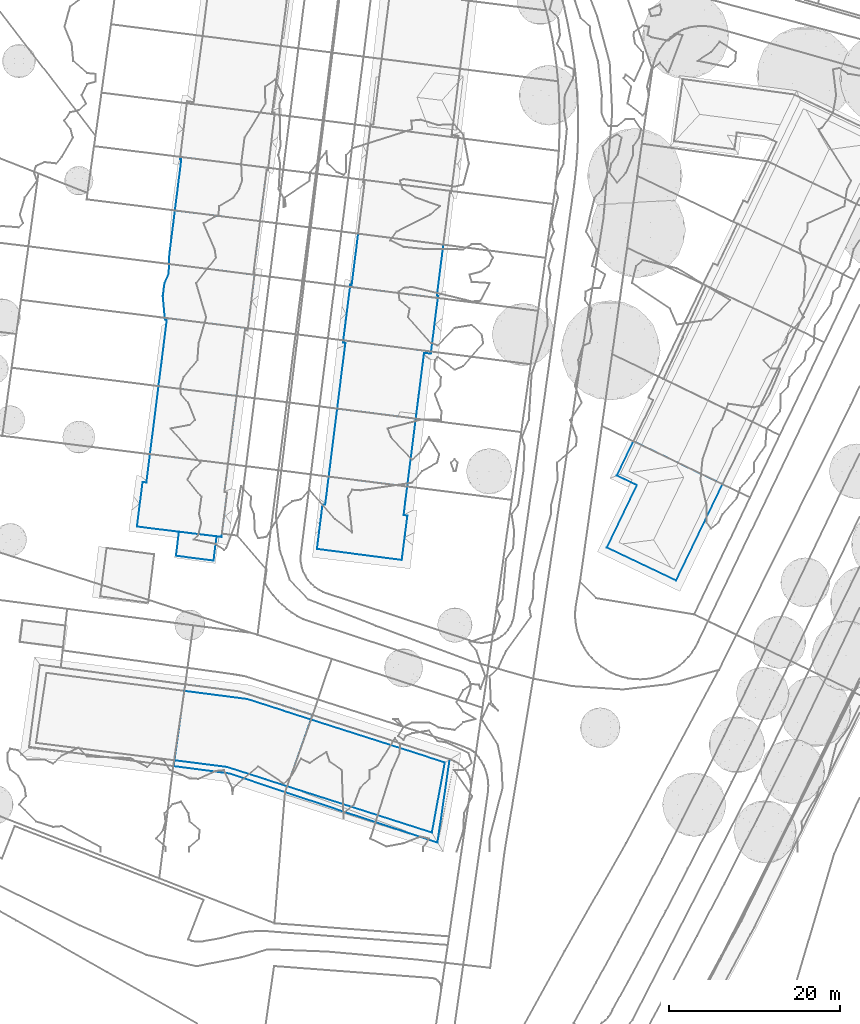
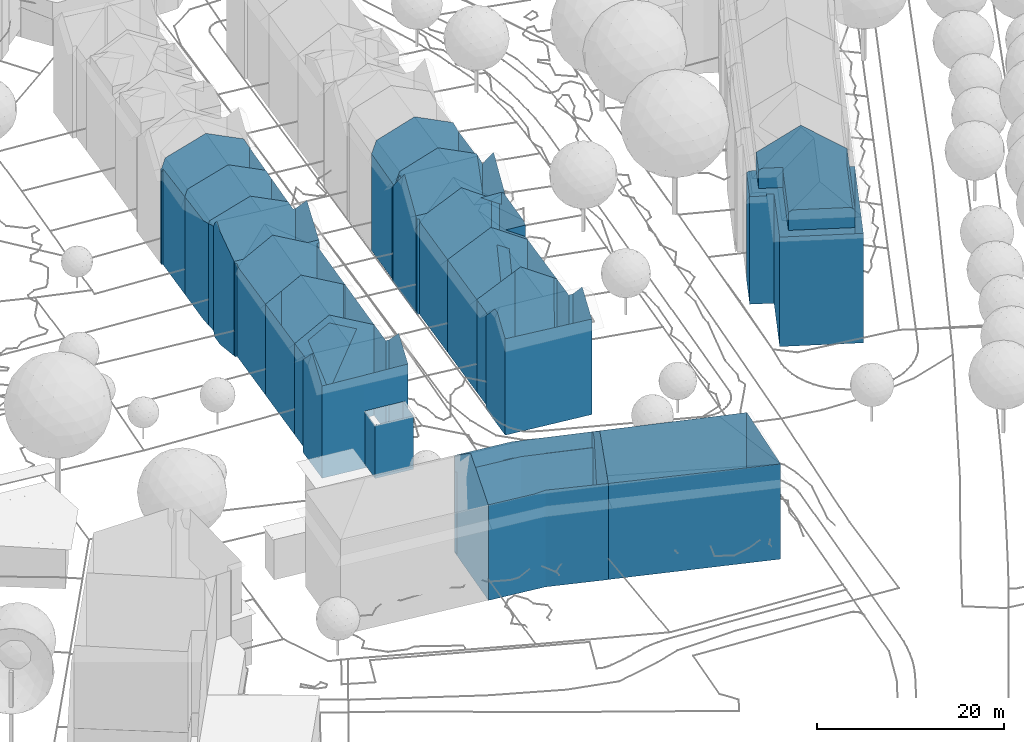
# Not in any storey, part 34 of 494: 15 walls.
"""IFC2X3 model written with IfcOpenShell, lengths in metres."""

import ifcopenshell
import ifcopenshell.guid

model = None  # the IFC model being written
_history = None  # IfcOwnerHistory: only IFC2X3 demands one
_inside = {}  # id of a spatial element -> (the spatial element, [elements in it])
_under = {}  # id of a project, library or spatial element -> (it, [spatial elements below it])
_declared = {}  # id of a project -> (the project, [libraries it declares])
_typed = {}  # id of a type object -> (the type object, [elements of that type])
_made_of = {}  # id of a material, layer set ... -> (it, [elements and type objects made of it])


def new_model(schema):
    """Start an empty IFC model of exactly this schema.

    Asked for "IFC4X3", IfcOpenShell would pick the latest addendum, in which some entities
    have other attributes; the version numbers below select the first issue.
    IFC2X3 requires an IfcOwnerHistory on every rooted entity: one is made here for all.
    """
    global model, _history
    if schema == "IFC4X3":
        model = ifcopenshell.file(schema_version=(4, 3, 0, 0))
    else:
        model = ifcopenshell.file(schema=schema)
    _inside.clear()
    _under.clear()
    _declared.clear()
    _typed.clear()
    _made_of.clear()
    _history = None
    if model.schema == "IFC2X3":
        org = make("IfcOrganization", Name="unknown")
        user = make(
            "IfcPersonAndOrganization",
            ThePerson=make("IfcPerson", FamilyName="unknown"),
            TheOrganization=org,
        )
        app = make(
            "IfcApplication",
            ApplicationDeveloper=org,
            Version="unknown",
            ApplicationFullName="unknown",
            ApplicationIdentifier="unknown",
        )
        _history = make(
            "IfcOwnerHistory",
            OwningUser=user,
            OwningApplication=app,
            ChangeAction="ADDED",
            CreationDate=0,
        )
    return model


def make(cls, **values):
    """One entity of the class cls with the attributes given. An attribute that is None is left unset."""
    return model.create_entity(
        cls, **{name: value for name, value in values.items() if value is not None}
    )


def rooted(cls, **values):
    """An entity with a GlobalId (a new one), such as an element, a storey or a relation."""
    return make(cls, GlobalId=ifcopenshell.guid.new(), OwnerHistory=_history, **values)


def si_unit(unit_type, name, prefix=None):
    """IfcSIUnit, for example si_unit("LENGTHUNIT", "METRE", prefix="MILLI")."""
    return make("IfcSIUnit", UnitType=unit_type, Prefix=prefix, Name=name)


def assignment(units):
    """IfcUnitAssignment: the units of a project."""
    return None if units is None else make("IfcUnitAssignment", Units=units)


def point(xyz):
    """IfcCartesianPoint."""
    return None if xyz is None else make("IfcCartesianPoint", Coordinates=xyz)


def direction(xyz):
    """IfcDirection."""
    return None if xyz is None else make("IfcDirection", DirectionRatios=xyz)


def frame(location, z_axis=None, x_axis=None):
    """IfcAxis2Placement3D, a coordinate frame: its origin and axes. An axis left out is left unset."""
    return make(
        "IfcAxis2Placement3D",
        Location=point(location),
        Axis=direction(z_axis),
        RefDirection=direction(x_axis),
    )


def origin_with_axes():
    """The frame at (0, 0, 0) with the z axis (0, 0, 1) and the x axis (1, 0, 0) written out."""
    return frame((0.0, 0.0, 0.0), z_axis=(0.0, 0.0, 1.0), x_axis=(1.0, 0.0, 0.0))


def place(relative_to, where):
    """IfcLocalPlacement: puts the frame where relative to a parent placement (None: the world)."""
    return make(
        "IfcLocalPlacement", PlacementRelTo=relative_to, RelativePlacement=where
    )


def context(
    kind, dimensions, precision=None, world=None, true_north=None, identifier=None
):
    """IfcGeometricRepresentationContext, for example the 3D "Model" context."""
    return make(
        "IfcGeometricRepresentationContext",
        ContextIdentifier=identifier,
        ContextType=kind,
        CoordinateSpaceDimension=dimensions,
        Precision=precision,
        WorldCoordinateSystem=world,
        TrueNorth=true_north,
    )


def subcontext(parent, identifier, kind, view, scale=None):
    """IfcGeometricRepresentationSubContext, for example "Body" below "Model"."""
    return make(
        "IfcGeometricRepresentationSubContext",
        ContextIdentifier=identifier,
        ContextType=kind,
        ParentContext=parent,
        TargetScale=scale,
        TargetView=view,
    )


def project(units=None, contexts=None):
    """IfcProject with its units and contexts."""
    return rooted(
        "IfcProject",
        Name="project",
        RepresentationContexts=contexts,
        UnitsInContext=assignment(units),
    )


def faces_of(points, faces, orient=None, outer=None):
    """IfcFace entities. A face is a list of loops; a loop is a list of indices into points, from 0.

    orient and outer hold one flag for each loop. By default every Orientation is true, the
    first loop of a face is its IfcFaceOuterBound and the others are IfcFaceBound.
    """
    made = []
    for i, loops in enumerate(faces):
        bounds = []
        for j, loop in enumerate(loops):
            is_outer = j == 0 if outer is None else outer[i][j]
            bounds.append(
                make(
                    "IfcFaceOuterBound" if is_outer else "IfcFaceBound",
                    Bound=make("IfcPolyLoop", Polygon=[points[k] for k in loop]),
                    Orientation=True if orient is None else orient[i][j],
                )
            )
        made.append(make("IfcFace", Bounds=bounds))
    return made


def faceted_brep(points, faces, orient=None, outer=None, voids=None):
    """IfcFacetedBrep: a solid bounded by flat faces; with voids (closed shells), ...WithVoids."""
    shared = [point(p) for p in points]
    hull = make("IfcClosedShell", CfsFaces=faces_of(shared, faces, orient, outer))
    if voids is None:
        return make("IfcFacetedBrep", Outer=hull)
    return make(
        "IfcFacetedBrepWithVoids",
        Outer=hull,
        Voids=[
            make(cls, CfsFaces=faces_of(shared, fs, o, b)) for cls, fs, o, b in voids
        ],
    )


def shape(context_of_items, identifier, shape_type, items):
    """IfcShapeRepresentation: the items that make up one representation, for example the "Body"."""
    return make(
        "IfcShapeRepresentation",
        ContextOfItems=context_of_items,
        RepresentationIdentifier=identifier,
        RepresentationType=shape_type,
        Items=items,
    )


def made_of(thing, what):
    """Note that an element or type object is made of a material, layer set ...; save() writes the relation."""
    if what is not None:
        _made_of.setdefault(what.id(), (what, []))[1].append(thing)
    return thing


def element(
    cls,
    number,
    at=None,
    inside=None,
    cuts=None,
    type_object=None,
    material=None,
    context=None,
    identifier="Body",
    shape_type=None,
    held_by="IfcProductDefinitionShape",
    body=None,
    shapes=None,
    **own,
):
    """One element of the class cls, such as IfcWall. Its Tag is "e" and its number.

    at: its placement. inside: the storey or other place that contains it. cuts: it is an
    opening in that element (IfcRelVoidsElement). A single representation is given by context,
    identifier, shape_type and body (its items); several are given by shapes. held_by: the class
    of the entity that holds the representations. save() writes the other relations.
    """
    e = rooted(cls, Tag="e%d" % number, ObjectPlacement=at, **own)
    if body is not None:
        shapes = [shape(context, identifier, shape_type, body)]
    if shapes is not None:
        e.Representation = make(held_by, Representations=shapes)
    if inside is not None:
        _inside.setdefault(inside.id(), (inside, []))[1].append(e)
    if cuts is not None:
        rooted(
            "IfcRelVoidsElement", RelatingBuildingElement=cuts, RelatedOpeningElement=e
        )
    if type_object is not None:
        _typed.setdefault(type_object.id(), (type_object, []))[1].append(e)
    return made_of(e, material)


def aggregate(whole, parts):
    """IfcRelAggregates: a whole, such as a stair, and the parts it consists of."""
    return rooted("IfcRelAggregates", RelatingObject=whole, RelatedObjects=parts)


def save(model, path):
    """Write the relations noted so far, then the file.

    IfcRelAggregates (storeys below a building ...), IfcRelContainedInSpatialStructure (elements
    in a storey), IfcRelDefinesByType, IfcRelAssociatesMaterial and IfcRelDeclares: one each for
    every whole, place, type object, material and project.
    """
    for whole, parts in _under.values():
        aggregate(whole, parts)
    for where, things in _inside.values():
        rooted(
            "IfcRelContainedInSpatialStructure",
            RelatedElements=things,
            RelatingStructure=where,
        )
    for kind, things in _typed.values():
        rooted("IfcRelDefinesByType", RelatedObjects=things, RelatingType=kind)
    for what, things in _made_of.values():
        rooted("IfcRelAssociatesMaterial", RelatedObjects=things, RelatingMaterial=what)
    for by, libraries in _declared.values():
        rooted("IfcRelDeclares", RelatingContext=by, RelatedDefinitions=libraries)
    model.write(path)


model = new_model("IFC2X3")

# Units and contexts
model_context = context("Model", 3, precision=1e-05, world=origin_with_axes())
body_context = subcontext(model_context, "Body", "Model", "MODEL_VIEW")
ifc_project = project(units=[si_unit("AREAUNIT", "SQUARE_METRE"), si_unit("LENGTHUNIT", "METRE")], contexts=[model_context])

# Walls
wall_1_placement = place(None, frame((489.4687320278, 34.2352160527, 498.9664), z_axis=(0.0, 0.0, 1.0), x_axis=(1.0, 0.0, 0.0)))
element("IfcWall", 1, at=wall_1_placement, Name="Wall 0", context=body_context, shape_type="Brep", body=[
    faceted_brep([(12.7919999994, 7.7509000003, 14.2667), (10.3259999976, 2.6297999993, 16.6284), (7.8599999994, -2.4902999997, 16.6274), (7.8599999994, -2.4902999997, 14.2667), (2.5659999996, 8.9481999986, 14.2667), (3.4829999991, 10.8515000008, 16.6475), (4.0260000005, 11.9774999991, 14.2667), (2.7929999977, 7.6347000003, 14.2667), (2.9379999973, 7.936499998, 14.2667), (2.7929999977, 7.6347000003, 14.0227), (0.0, 0.0, 14.2667), (3.5139999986, 7.2840999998, 14.2667), (0.0, 0.0, 0.0), (8.0909999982, -3.8643000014, 14.2667), (8.0909999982, -3.8643000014, 0.0), (13.5309999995, 7.3944999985, 14.2667), (13.5309999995, 7.3944999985, 0.0), (4.8990000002, 7.8242000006, 14.2667), (1.4230000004, 0.6092999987, 14.2667), (4.7939999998, 7.6063999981, 16.6434), (1.4230000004, 0.6092999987, 16.6434), (4.8990000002, 7.8242000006, 16.8884), (7.4649999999, -2.3007999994, 16.9194), (1.7850000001, 0.4354999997, 16.9184), (1.7850000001, 0.4354999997, 14.2667), (2.8809999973, 8.7967999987, 16.8884), (2.5659999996, 8.9481999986, 16.6474), (1.1679999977, 8.4237999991, 0.0001), (1.1679999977, 8.4237999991, 14.0257), (3.1030000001, 12.4228000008, 0.0001), (1.1779999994, 8.4442999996, 14.0427), (3.1030000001, 12.4228000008, 14.0497), (3.5139999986, 7.2840999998, 0.0), (3.3499999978, 12.3037, 14.2667), (8.311999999, 9.9100999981, 0.0), (3.3530000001, 12.3016999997, 0.0001), (3.2719999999, 12.3407999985, 0.0001), (12.7919999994, 7.7509000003, 0.0), (4.0260000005, 11.9774999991, 16.6485), (8.311999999, 9.9100999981, 19.9281), (12.7919999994, 7.7509000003, 16.6284)], [[[0, 1, 2]], [[0, 2, 3]], [[4, 5, 6]], [[7, 8, 9]], [[10, 11, 12]], [[13, 10, 14]], [[15, 13, 16]], [[17, 18, 19]], [[19, 18, 20]], [[17, 19, 21]], [[3, 2, 22]], [[22, 23, 3]], [[3, 23, 24]], [[24, 20, 18]], [[20, 24, 23]], [[17, 21, 4]], [[25, 26, 21]], [[4, 21, 26]], [[27, 28, 29]], [[28, 30, 31]], [[28, 31, 29]], [[9, 32, 11]], [[7, 9, 11]], [[28, 27, 9]], [[9, 27, 32]], [[31, 33, 6]], [[0, 34, 6]], [[31, 6, 35]], [[36, 29, 31]], [[36, 31, 35]], [[6, 34, 35]], [[34, 0, 37]], [[6, 38, 39]], [[6, 39, 0]], [[15, 16, 0]], [[16, 37, 0]], [[0, 39, 40]], [[40, 1, 0]], [[5, 4, 26]], [[38, 6, 5]], [[11, 32, 12]], [[10, 12, 14]], [[13, 14, 16]]]),
])
wall_2_placement = place(None, frame((434.497732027, 36.682416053, 499.5704), z_axis=(0.0, 0.0, 1.0), x_axis=(1.0, 0.0, 0.0)))
element("IfcWall", 2, at=wall_2_placement, Name="Wall 0", context=body_context, shape_type="Brep", body=[
    faceted_brep([(0.6559999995, 5.2089999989, 12.0809), (1.1019999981, 5.1532999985, 12.0749), (0.6559999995, 5.2089999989, 7.5503), (1.1019999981, 5.1532999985, 9.0552), (0.6559999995, 5.2089999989, 0.0001), (1.1019999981, 5.1532999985, 6.0345), (1.1019999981, 5.1532999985, 3.0148), (1.1019999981, 5.1532999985, 0.0001), (4.5639999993, -3.4219000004, 7.4243), (4.9129999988, -0.6094000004, 7.4243), (4.5639999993, -3.4218000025, 0.454), (8.9620000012, -3.9814000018, 7.4243), (8.9620000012, -3.9814000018, 0.454), (9.3139999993, -1.1552000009, 7.4243), (9.3139999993, -1.1552000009, 0.454), (9.5769999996, -1.188500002, 7.4243), (9.5769999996, -1.188500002, 0.454), (9.5789999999, -1.1737999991, 7.4243), (9.5789999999, -1.1737999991, 0.454), (10.2470000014, 4.1396999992, 0.0), (10.6510000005, 7.3222999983, 0.0), (10.2470000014, 4.1396999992, 11.8349), (10.2329999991, 4.0313000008, 0.0), (10.2329999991, 4.0313000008, 11.9389), (10.6510000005, 7.3222999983, 11.8539), (10.5500000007, 3.9912, 11.9359), (10.5500000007, 3.9912, 0.0), (9.8889999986, -1.2109000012, 12.1769), (10.4959999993, 3.5683999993, 12.3429), (10.2080000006, 1.2989000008, 14.5296), (9.8889999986, -1.2109000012, 0.0), (10.2080000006, 1.2989000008, 0.0), (1.1220000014, 5.3095999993, 11.9249), (1.5179999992, 8.4609999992, 11.8989), (1.5179999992, 8.4609999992, 0.0001), (5.4829999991, 7.9668000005, 0.0001), (5.4829999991, 7.9668000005, 14.5297), (0.0, 0.0, 12.0309), (0.3359999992, 2.6660000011, 0.0), (0.0, 0.0, 0.0), (0.2340000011, 1.8554999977, 13.7707), (0.3359999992, 2.6660000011, 14.5297), (7.2369999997, -0.8905999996, 12.1339), (4.7949999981, -0.5956999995, 0.0), (4.7939999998, -0.5956999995, 12.0939), (4.9129999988, -0.6093000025, 0.454)], [[[0, 1, 2]], [[3, 4, 1]], [[5, 4, 3]], [[6, 7, 4]], [[8, 9, 10]], [[11, 8, 12]], [[13, 11, 14]], [[15, 13, 16]], [[17, 15, 18]], [[19, 20, 21]], [[22, 19, 21]], [[21, 23, 22]], [[24, 21, 20]], [[23, 25, 22]], [[22, 25, 26]], [[27, 25, 28]], [[27, 28, 29]], [[30, 31, 25]], [[26, 25, 31]], [[25, 27, 30]], [[32, 33, 3]], [[3, 1, 32]], [[33, 34, 3]], [[5, 34, 6]], [[34, 5, 3]], [[7, 6, 34]], [[34, 33, 35]], [[35, 33, 24]], [[35, 24, 20]], [[24, 33, 36]], [[37, 38, 39]], [[4, 37, 2]], [[37, 4, 38]], [[2, 37, 40]], [[40, 0, 2]], [[0, 40, 41]], [[27, 17, 30]], [[17, 27, 42]], [[18, 30, 17]], [[43, 30, 18]], [[17, 42, 9]], [[44, 9, 42]], [[44, 37, 9]], [[9, 37, 39]], [[39, 43, 45]], [[45, 9, 39]], [[45, 43, 18]], [[1, 4, 2]], [[5, 6, 4]], [[9, 45, 10]], [[8, 10, 12]], [[11, 12, 14]], [[13, 14, 16]], [[15, 16, 18]]]),
])
wall_3_placement = place(None, frame((437.0167320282, 53.1053160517, 499.5705), z_axis=(0.0, 0.0, 1.0), x_axis=(1.0, 0.0, 0.0)))
element("IfcWall", 3, at=wall_3_placement, Name="Wall 0", context=body_context, shape_type="Brep", body=[
    faceted_brep([(0.2280000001, 1.8125, 0.0), (0.5519999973, 4.3857000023, 11.8158), (0.5899999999, 4.6933000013, 0.0), (0.0, 0.0, 11.8448), (0.2449999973, 1.9472000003, 11.8318), (0.0, 0.0, 0.0), (0.9329999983, 7.4169999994, 11.7958), (0.9769999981, 7.7666000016, 0.0), (1.7649999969, -0.2216999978, 13.0037), (1.7649999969, -0.2216999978, 0.0), (1.8079999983, 7.8553999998, 12.3228), (4.6549999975, 7.4990000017, 0.0), (1.8079999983, 7.8553999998, 0.0), (4.0639999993, -0.5097999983, 14.5296), (4.0639999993, -0.5097999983, 0.0), (4.6549999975, 7.4990000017, 14.1926), (5.1639999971, 7.4354999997, 0.0), (0.9769999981, 7.7666000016, 12.1288), (0.743999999, 7.9882999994, 12.3058), (0.743999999, 7.9882999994, 0.0), (0.7619999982, 7.7928999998, 12.1258), (0.7619999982, 7.7928999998, 0.0), (10.1229999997, 6.5644000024, 12.2328), (10.1229999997, 6.5644000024, 0.0), (10.4389999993, 6.5243999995, 0.0), (10.4709999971, 6.7723999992, 0.0), (10.4709999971, 6.7723999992, 12.4688), (10.4579999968, 6.6728000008, 12.3748), (9.1739999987, 6.9345000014, 12.4528), (9.1739999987, 6.9345000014, 0.0), (9.6719999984, 3.0175999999, 0.0), (9.8530000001, 4.4394000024, 11.9318), (9.1429999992, -1.1475000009, 11.8998), (9.1429999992, -1.1475000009, 0.0), (5.1639999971, 7.4354999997, 14.5296), (10.0839999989, 6.2567999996, 11.9418), (10.4389999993, 6.5243999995, 12.2358)], [[[0, 1, 2]], [[0, 3, 4]], [[3, 0, 5]], [[6, 7, 1]], [[1, 7, 2]], [[8, 3, 9]], [[10, 11, 12]], [[13, 8, 14]], [[15, 16, 11]], [[17, 7, 6]], [[18, 12, 19]], [[20, 19, 21]], [[19, 20, 18]], [[21, 7, 17]], [[22, 23, 24]], [[25, 26, 27]], [[25, 27, 24]], [[28, 26, 29]], [[26, 25, 29]], [[30, 23, 31]], [[31, 32, 33]], [[31, 33, 30]], [[34, 28, 16]], [[32, 14, 33]], [[14, 32, 13]], [[4, 1, 0]], [[3, 5, 9]], [[15, 11, 10]], [[8, 9, 14]], [[34, 16, 15]], [[10, 12, 18]], [[17, 20, 21]], [[22, 35, 23]], [[36, 22, 24]], [[36, 24, 27]], [[23, 35, 31]], [[28, 29, 16]]]),
])
wall_4_placement = place(None, frame((438.9377320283, 73.6600160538, 499.5705), z_axis=(0.0, 0.0, 1.0), x_axis=(1.0, 0.0, 0.0)))
element("IfcWall", 4, at=wall_4_placement, Name="Wall 0", context=body_context, shape_type="Brep", body=[
    faceted_brep([(9.3189999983, -1.1739000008, 13.5977), (4.9719999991, -0.6270000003, 0.0), (9.3189999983, -1.1739000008, 0.0), (5.8369999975, 5.6180999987, 15.5125), (10.1849999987, 5.0770999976, 13.5987), (5.8369999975, 5.6180999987, 0.0), (4.9719999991, -0.6270000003, 15.5125), (0.2919999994, -0.0381000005, 13.5987), (1.1549999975, 6.2001999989, 13.5987), (1.1549999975, 6.2001999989, 0.0), (0.186999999, 1.4891999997, 0.0), (0.4199999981, 3.3475999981, 12.5718), (0.4659999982, 3.7118999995, 0.0), (0.0, 0.0, 12.7018), (0.1879999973, 1.498999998, 12.6438), (0.0, 0.0, 0.0), (0.7529999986, 5.9969999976, 12.4698), (0.2919999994, -0.0381000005, 0.0), (0.7419999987, 6.2509000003, 12.3288), (0.6289999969, 6.2645999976, 0.0), (0.7529999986, 5.9969999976, 0.0), (0.6939999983, 6.0047999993, 8.3912), (0.6030000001, 6.0155999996, 0.0), (0.6269999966, 6.0126999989, 12.0808), (0.6030000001, 6.0155999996, 12.0808), (0.6289999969, 6.2645999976, 12.3268), (10.932, 4.9833999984, 0.0), (10.9149999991, 4.8348999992, 12.1148), (10.9189999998, 4.8680999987, 0.0), (10.856999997, 4.9930999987, 12.2698), (10.856999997, 4.9930999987, 0.0), (10.932, 4.9833999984, 12.2708), (10.2869999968, 1.2509000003, 0.0), (10.1579999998, 0.244099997, 12.3488), (10.1589999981, 0.245099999, 4.5715), (10.7329999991, 4.7460999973, 0.0), (10.7329999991, 4.7460999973, 12.4448), (10.5179999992, 3.0585999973, 0.0), (10.5409999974, 3.245099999, 12.4128), (10.3499999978, 1.745099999, 12.3808), (9.9670000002, -1.255900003, 0.0), (9.9670000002, -1.255900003, 12.3178), (10.9019999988, 4.7245999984, 0.0), (10.9019999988, 4.7245999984, 12.1108), (10.1849999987, 5.0770999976, 0.0)], [[[0, 1, 2]], [[3, 4, 5]], [[6, 7, 1]], [[8, 5, 9]], [[10, 11, 12]], [[13, 14, 15]], [[10, 15, 14]], [[11, 16, 12]], [[7, 15, 17]], [[15, 7, 13]], [[18, 9, 19]], [[20, 21, 22]], [[20, 16, 21]], [[23, 24, 22]], [[19, 25, 18]], [[22, 24, 25]], [[25, 19, 22]], [[26, 27, 28]], [[29, 26, 30]], [[26, 29, 31]], [[32, 33, 34]], [[35, 36, 37]], [[37, 36, 38]], [[39, 33, 32]], [[40, 34, 41]], [[34, 40, 32]], [[42, 43, 36]], [[36, 35, 42]], [[28, 27, 43]], [[43, 42, 28]], [[4, 29, 44]], [[41, 2, 40]], [[2, 41, 0]], [[6, 1, 0]], [[4, 44, 5]], [[7, 17, 1]], [[3, 5, 8]], [[14, 11, 10]], [[16, 20, 12]], [[8, 9, 18]], [[21, 16, 23]], [[23, 22, 21]], [[31, 27, 26]], [[38, 32, 37]], [[39, 32, 38]], [[34, 33, 41]], [[29, 30, 44]]]),
])
wall_5_placement = place(None, frame((438.2527320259, 67.3914160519, 499.5705), z_axis=(0.0, 0.0, 1.0), x_axis=(1.0, 0.0, 0.0)))
element("IfcWall", 5, at=wall_5_placement, Name="Wall 0", context=body_context, shape_type="Brep", body=[
    faceted_brep([(4.7919999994, -0.6024999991, 15.5125), (0.1119999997, -0.0137000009, 13.5987), (4.7919999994, -0.6024999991, 0.0), (0.9770000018, 6.2305000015, 13.5987), (5.6570000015, 5.6416000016, 0.0), (0.9770000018, 6.2305000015, 0.0), (0.2820000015, 3.066399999, 3.9566), (0.5240000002, 4.9873000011, 7.9132), (0.4680000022, 4.5390999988, 0.0), (0.0410000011, 1.1455000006, 12.8987), (0.0410000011, 1.1455000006, 0.0), (0.4499999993, 4.4013999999, 12.7728), (0.6850000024, 6.2686000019, 12.7018), (0.6850000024, 6.2686000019, 0.0), (0.0, 0.0, 13.2537), (0.0, 0.0, 0.0), (9.1400000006, -1.1493999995, 13.5977), (9.1400000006, -1.1493999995, 0.0), (5.6570000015, 5.6416000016, 15.5125), (10.0040000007, 5.0947000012, 13.5977), (10.3590000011, 2.7109000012, 0.0), (10.0760000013, 0.501000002, 12.2218), (10.1220000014, 0.8544999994, 0.0), (10.6520000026, 5.0126999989, 12.3178), (10.4890000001, 3.7314999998, 12.2908), (10.6520000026, 5.0126999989, 0.0), (10.2730000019, 2.0410000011, 12.2548), (9.8859999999, -0.9921999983, 0.0), (10.0040000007, 5.0947000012, 0.0), (9.693, -1.2197000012, 12.5038), (9.693, -1.2197000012, 0.0), (10.0350000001, -1.0108000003, 12.2528), (10.0350000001, -1.0106999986, 0.0), (9.8859999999, -0.9921999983, 12.2548), (9.8940000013, -0.9296999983, 12.1918), (10.0040000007, -1.2588, 12.4998), (10.0040000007, -1.2588, 0.0)], [[[0, 1, 2]], [[3, 4, 5]], [[6, 7, 8]], [[9, 6, 10]], [[10, 6, 8]], [[11, 12, 7]], [[13, 8, 12]], [[14, 9, 15]], [[1, 14, 15]], [[5, 12, 3]], [[5, 13, 12]], [[16, 2, 17]], [[18, 19, 4]], [[20, 21, 22]], [[23, 24, 25]], [[20, 24, 26]], [[26, 21, 20]], [[21, 27, 22]], [[19, 25, 28]], [[25, 19, 23]], [[29, 17, 30]], [[31, 32, 33]], [[33, 32, 27]], [[27, 34, 33]], [[35, 30, 36]], [[30, 35, 29]], [[32, 31, 35]], [[35, 36, 32]], [[1, 15, 2]], [[18, 4, 3]], [[9, 11, 6]], [[11, 7, 6]], [[8, 7, 12]], [[9, 10, 15]], [[0, 2, 16]], [[19, 28, 4]], [[24, 20, 25]], [[34, 27, 21]], [[16, 17, 29]]]),
])
wall_6_placement = place(None, frame((437.5277320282, 63.6443160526, 499.5705), z_axis=(0.0, 0.0, 1.0), x_axis=(1.0, 0.0, 0.0)))
element("IfcWall", 6, at=wall_6_placement, Name="Wall 0", context=body_context, shape_type="Brep", body=[
    faceted_brep([(9.8649999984, 2.5976999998, 13.5977), (10.4179999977, 2.5273999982, 12.5038), (9.8649999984, 2.5976999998, 0.0), (10.5479999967, 1.0157000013, 0.0), (10.7289999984, 2.4882999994, 12.4998), (10.6459999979, 1.8125, 13.1747), (10.7289999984, 2.4882999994, 0.0), (10.3579999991, -0.5302000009, 15.5125), (10.4179999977, 2.5273999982, 0.0), (0.1079999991, 0.8535999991, 15.4815), (0.1119999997, 0.8887000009, 15.5135), (0.1030000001, 0.8194000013, 0.0), (9.9599999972, -3.7666000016, 0.0), (9.9599999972, -3.7666000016, 12.4688), (8.6629999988, -3.6044999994, 12.4528), (10.1959999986, -1.8515000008, 14.2696), (10.1589999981, -2.1484000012, 0.0), (4.6529999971, -3.1035000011, 0.0), (0.8369999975, 3.7333999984, 13.5987), (5.5169999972, 3.1446000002, 0.0), (0.7249999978, 3.7470999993, 0.0), (0.1939999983, 1.5361999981, 14.8216), (0.1939999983, 1.5361999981, 0.0), (0.6849999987, 2.6347999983, 13.5987), (0.6849999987, 2.6347999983, 0.0), (0.7249999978, 3.7470999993, 13.2537), (5.5169999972, 3.1446000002, 15.5125), (4.1439999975, -3.0399999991, 14.1926), (1.2969999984, -2.683600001, 12.3228), (4.1439999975, -3.0399999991, 0.0), (4.6529999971, -3.1035000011, 14.5296), (0.0, 0.0, 0.0), (0.2329999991, -2.5507000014, 12.3058), (0.0, 0.0, 14.6666), (0.2329999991, -2.5507000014, 0.0)], [[[0, 1, 2]], [[3, 4, 5]], [[4, 3, 6]], [[7, 3, 5]], [[1, 4, 8]], [[4, 6, 8]], [[9, 10, 11]], [[12, 13, 14]], [[3, 7, 15]], [[15, 13, 16]], [[15, 16, 3]], [[13, 12, 16]], [[14, 17, 12]], [[18, 19, 20]], [[21, 22, 10]], [[10, 22, 11]], [[22, 21, 23]], [[24, 22, 23]], [[23, 25, 24]], [[26, 0, 19]], [[27, 28, 29]], [[30, 27, 17]], [[31, 9, 11]], [[32, 33, 34]], [[33, 31, 34]], [[28, 32, 34]], [[1, 8, 2]], [[30, 17, 14]], [[26, 19, 18]], [[18, 20, 25]], [[25, 20, 24]], [[0, 2, 19]], [[28, 34, 29]], [[27, 29, 17]], [[9, 31, 33]]]),
])
wall_7_placement = place(None, frame((436.0157320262, 45.1434160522, 499.5705), z_axis=(0.0, 0.0, 1.0), x_axis=(1.0, 0.0, 0.0)))
element("IfcWall", 7, at=wall_7_placement, Name="Wall 0", context=body_context, shape_type="Brep", body=[
    faceted_brep([(0.0, 0.0, 0.0), (0.0670000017, 0.5340999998, 11.8938), (0.3949999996, 3.1444999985, 0.0), (0.4820000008, 3.8300000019, 11.8718), (0.7679999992, 6.1053999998, 0.0), (1.001000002, 7.9618999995, 0.0), (1.001000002, 7.9618999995, 11.8448), (2.7659999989, 7.7402000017, 0.0), (2.7659999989, 7.7402000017, 13.0037), (0.0, 0.0, 11.8988), (3.9649999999, -0.4941999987, 14.5296), (3.9649999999, -0.4941999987, 0.0), (5.0650000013, 7.4510999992, 0.0), (9.5500000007, 2.1444999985, -0.0001), (9.3740000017, 0.753899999, 11.8648), (9.1330000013, -1.1387000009, -0.0001), (10.1440000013, 6.8143999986, 11.8998), (9.7860000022, 3.996100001, 11.8828), (10.1440000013, 6.8143999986, 0.0), (9.8909999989, 4.8260999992, 0.0), (5.0650000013, 7.4510999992, 14.5296), (9.1330000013, -1.1387000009, 11.8538)], [[[0, 1, 2]], [[2, 1, 3]], [[3, 4, 2]], [[5, 3, 6]], [[3, 5, 4]], [[6, 7, 5]], [[7, 6, 8]], [[1, 0, 9]], [[10, 9, 11]], [[8, 12, 7]], [[13, 14, 15]], [[16, 17, 18]], [[19, 17, 13]], [[17, 19, 18]], [[20, 16, 12]], [[15, 21, 10]], [[11, 15, 10]], [[9, 0, 11]], [[20, 12, 8]], [[17, 14, 13]], [[21, 15, 14]], [[16, 18, 12]]]),
])
wall_8_placement = place(None, frame((456.9307320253, 42.5213160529, 499.4054), z_axis=(0.0, 0.0, 1.0), x_axis=(1.0, 0.0, 0.0)))
element("IfcWall", 8, at=wall_8_placement, Name="Wall 0", context=body_context, shape_type="Brep", body=[
    faceted_brep([(10.1860000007, 6.7793000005, 12.2009), (9.1860000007, -1.1669999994, 0.0), (10.1860000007, 6.7793000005, 0.0), (8.0789999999, 7.0487999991, 13.5817), (8.0789999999, 7.0487999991, 0.0), (9.1860000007, -1.1669999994, 12.2589), (8.7890000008, -1.1162, 0.0), (5.9710000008, 7.316399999, 14.9436), (5.9710000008, 7.316399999, 0.0), (0.387000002, 3.0986000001, 12.0669), (0.3390000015, 2.7157999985, 0.0), (0.0, 0.0, 0.0), (0.9930000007, 7.9501999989, 12.0879), (0.9930000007, 7.9501999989, 0.0001), (5.0370000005, -0.6396999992, 14.9436), (0.0, 0.0, 12.0539), (8.807, -1.1182000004, 12.5078)], [[[0, 1, 2]], [[3, 0, 4]], [[5, 6, 1]], [[7, 3, 8]], [[9, 10, 11]], [[12, 13, 9]], [[13, 10, 9]], [[14, 11, 6]], [[15, 11, 14]], [[13, 12, 7]], [[8, 13, 7]], [[5, 1, 0]], [[0, 2, 4]], [[16, 6, 5]], [[14, 6, 16]], [[3, 4, 8]], [[11, 15, 9]]]),
])
wall_9_placement = place(None, frame((457.923732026, 50.4715160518, 499.4055), z_axis=(0.0, 0.0, 1.0), x_axis=(1.0, 0.0, 0.0)))
element("IfcWall", 9, at=wall_9_placement, Name="Wall 0", context=body_context, shape_type="Brep", body=[
    faceted_brep([(6.9499999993, -0.3027999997, 13.7096), (7.0329999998, -0.3125, 13.6596), (9.2679999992, -0.5762000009, 13.7096), (9.2679999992, -0.5762000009, 12.1958), (9.1390000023, 6.0097000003, 12.7657), (7.6480000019, 6.1435000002, 13.7486), (10.0870000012, 5.9248000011, 13.7486), (10.0870000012, 5.9248000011, 12.1488), (10.1630000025, 6.5322000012, 12.3188), (10.9560000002, 6.4316000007, 0.0), (10.9560000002, 6.4316000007, 12.3108), (10.1630000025, 6.5322000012, 3.0797), (10.1630000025, 6.5322000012, 0.0), (10.9730000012, 6.5713, 4.2065), (10.9869999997, 6.6797000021, 6.3143), (10.9869999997, 6.6797000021, 3.1456), (10.9869999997, 6.6797000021, 0.0), (0.6830000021, 7.7362999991, 0.0), (0.6999999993, 7.875, 12.5668), (0.699000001, 7.8652000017, 4.6205), (0.7149999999, 7.9941000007, 0.0), (0.6830000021, 7.7362999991, 12.4158), (0.9609999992, 7.7010999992, 12.4128), (0.9609999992, 7.7010999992, 9.3091), (0.9609999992, 7.7012000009, 6.2054), (0.9609999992, 7.7012000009, 0.0), (0.0, 0.0, 0.0), (0.0, 0.0, 12.0878), (0.9270000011, 7.4307000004, 12.1178), (7.0859999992, -0.9013999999, 13.5816), (4.9780000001, -0.6338, 14.9435), (9.193, -1.1699000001, -0.0001), (9.193, -1.1699000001, 12.2008), (4.9780000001, -0.6338, -0.0001), (7.0859999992, -0.9013999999, -0.0001), (5.9140000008, 7.3291000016, 0.0), (1.9719999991, 7.8330000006, 12.6817), (5.9140000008, 7.3291000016, 14.9435), (6.3570000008, 7.2723999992, 14.6575), (1.9719999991, 7.8330000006, 0.0), (0.7149999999, 7.9941000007, 12.6957), (6.3570000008, 7.2723999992, 0.0), (9.3990000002, 6.8828000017, 12.6627), (9.5350000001, 6.8662, 12.5977), (10.9869999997, 6.6797000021, 12.5817), (9.3990000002, 6.8828000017, 0.0), (9.5350000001, 6.8662, 0.0), (10.1630000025, 6.5322000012, 9.2231), (10.1460000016, 6.3973999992, 12.1728), (10.1339999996, 6.2998000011, 12.1458), (10.0940000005, 5.9834000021, 0.0), (9.3390000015, -0.0108000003, -0.0001), (10.0240000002, 5.4277000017, 13.9906), (9.3390000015, -0.0108000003, 13.9596), (10.0240000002, 5.4248000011, 0.0), (9.2679999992, -0.5762000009, -0.0001)], [[[0, 1, 2]], [[3, 2, 1]], [[4, 5, 6]], [[4, 6, 7]], [[8, 9, 10]], [[9, 11, 12]], [[13, 10, 9]], [[14, 13, 15]], [[16, 15, 13]], [[13, 9, 16]], [[17, 18, 19]], [[19, 18, 20]], [[17, 21, 18]], [[19, 20, 17]], [[22, 17, 23]], [[24, 17, 25]], [[25, 26, 24]], [[24, 26, 27]], [[28, 22, 23]], [[24, 27, 23]], [[23, 27, 28]], [[29, 30, 31]], [[31, 32, 29]], [[30, 27, 31]], [[27, 26, 33]], [[33, 34, 27]], [[27, 34, 31]], [[35, 36, 37]], [[35, 37, 38]], [[39, 20, 40]], [[39, 40, 36]], [[36, 35, 39]], [[38, 41, 35]], [[42, 43, 14]], [[14, 43, 44]], [[42, 14, 45]], [[41, 42, 45]], [[46, 15, 16]], [[15, 46, 45]], [[14, 15, 45]], [[42, 41, 38]], [[47, 8, 48]], [[49, 7, 47]], [[48, 49, 47]], [[11, 50, 12]], [[51, 11, 47]], [[3, 47, 7]], [[52, 53, 7]], [[7, 53, 3]], [[2, 3, 53]], [[3, 32, 31]], [[51, 47, 3]], [[50, 11, 54]], [[3, 55, 51]], [[55, 3, 31]], [[11, 51, 54]], [[52, 7, 6]], [[9, 8, 47]], [[47, 11, 9]], [[14, 10, 13]], [[44, 10, 14]], [[20, 18, 40]], [[21, 17, 22]], [[24, 23, 17]]]),
])
wall_10_placement = place(None, frame((458.6387320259, 58.4656160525, 499.4055), z_axis=(0.0, 0.0, 1.0), x_axis=(1.0, 0.0, 0.0)))
element("IfcWall", 10, at=wall_10_placement, Name="Wall 0", context=body_context, shape_type="Brep", body=[
    faceted_brep([(10.4959999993, 0.4765999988, 0.0), (10.4079999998, -0.2285000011, 13.7626), (10.3729999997, -0.5078000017, 1.3898), (10.7880000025, 2.8134999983, 15.0635), (10.5899999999, 1.2314999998, 15.3525), (10.6610000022, 1.7969000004, 0.0), (10.2719999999, -1.3134999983, 12.5817), (10.2719999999, -1.3134999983, 0.0), (0.0989999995, 0.7802999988, 1.4758), (0.0989999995, 0.7802999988, 13.5457), (0.1970000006, 1.5606000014, 0.0), (0.1970000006, 1.5606000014, 14.3946), (0.2960000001, 2.3398999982, 15.2435), (0.0, 0.0, 0.0), (0.2960000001, 2.3398999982, 3.1747), (0.4039999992, 3.1884999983, 0.0), (0.3949999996, 3.120099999, 16.0924), (1.2569999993, -0.1611000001, 12.6817), (1.2569999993, -0.1611000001, 0.0), (8.8200000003, -1.1279000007, 0.0), (8.8200000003, -1.1279000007, 12.5977), (5.199000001, -0.6649999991, 14.9435), (5.199000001, -0.6649999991, 0.0), (5.6420000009, -0.7217000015, 14.6575), (5.6420000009, -0.7217000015, 0.0), (11.0549999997, 4.9483000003, 0.0), (10.3780000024, 5.0342000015, 14.1246), (11.0549999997, 4.9483000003, 12.6317), (10.8269999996, 3.1270000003, 0.0), (8.6840000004, -1.1112999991, 12.6627), (8.6840000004, -1.1112999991, 0.0), (5.9360000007, 5.5986999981, 16.0924), (5.9360000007, 5.5986999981, 0.0), (1.5480000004, 6.1581999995, 14.2016), (1.5600000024, 6.1572999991, 0.0), (0.7910000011, 6.253899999, 12.5168), (0.568, 4.4882999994, 0.0), (0.5219999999, 4.1231000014, 14.9475), (0.7910000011, 6.253899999, 0.0), (0.9719999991, 6.2314999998, 12.5188), (0.0, 0.0, 12.6957), (10.6750000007, 1.9111999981, 16.0924)], [[[0, 1, 2]], [[3, 4, 5]], [[0, 5, 4]], [[1, 6, 2]], [[2, 7, 0]], [[6, 7, 2]], [[8, 9, 10]], [[10, 11, 12]], [[13, 8, 10]], [[10, 14, 15]], [[16, 15, 14]], [[17, 13, 18]], [[19, 6, 20]], [[19, 7, 6]], [[21, 17, 22]], [[23, 22, 24]], [[25, 26, 27]], [[27, 3, 28]], [[3, 5, 28]], [[29, 24, 30]], [[20, 30, 19]], [[31, 26, 32]], [[33, 32, 34]], [[35, 36, 37]], [[35, 38, 36]], [[34, 35, 39]], [[34, 38, 35]], [[4, 1, 0]], [[9, 11, 10]], [[10, 12, 14]], [[13, 40, 9]], [[9, 8, 13]], [[14, 12, 16]], [[40, 13, 17]], [[17, 18, 22]], [[21, 22, 23]], [[27, 28, 25]], [[41, 4, 3]], [[23, 24, 29]], [[29, 30, 20]], [[26, 25, 32]], [[31, 32, 33]], [[37, 36, 16]], [[36, 15, 16]], [[33, 34, 39]]]),
])
wall_11_placement = place(None, frame((459.429732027, 64.7195160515, 499.4055), z_axis=(0.0, 0.0, 1.0), x_axis=(1.0, 0.0, 0.0)))
element("IfcWall", 11, at=wall_11_placement, Name="Wall 0", context=body_context, shape_type="Brep", body=[
    faceted_brep([(9.5870000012, -1.2196999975, 14.1246), (5.1449999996, -0.6552000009, 0.0), (10.2659999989, -1.3055999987, 0.0), (5.8790000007, 5.5879000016, 16.0924), (10.3200000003, 5.0175999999, 14.1246), (5.8790000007, 5.5879000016, 0.0), (5.1449999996, -0.6552000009, 16.0924), (0.7569999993, -0.0956999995, 14.2016), (1.4910000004, 6.1534000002, 14.2016), (0.9470000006, 6.2237000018, 0.0), (0.0, 0.0, 0.0), (0.0, 0.0, 12.5168), (0.0309999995, 0.2481000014, 0.0), (0.180999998, -0.0223999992, 12.5188), (0.7659999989, -0.0965999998, 0.0), (0.0309999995, 0.2481000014, 12.2348), (0.112999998, 0.2382999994, 12.2348), (0.1900000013, 0.2285000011, 0.0), (0.1900000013, 0.2285000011, 12.4598), (0.9470000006, 6.2237000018, 12.6108), (0.3790000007, 1.7266000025, 12.4978), (0.6579999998, 3.9317000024, 0.0), (10.9149999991, 4.9405000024, 0.0), (10.9149999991, 4.9405000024, 12.7957), (10.7259999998, 3.4453000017, 0.0), (10.1579999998, -1.0399999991, 0.0), (10.3200000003, 5.0175999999, 0.0), (10.307, -1.0585999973, 0.0), (10.307, -1.0585999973, 12.5818), (10.2890000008, -1.1649999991, 6.0934), (10.2659999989, -1.3055999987, 12.6177), (10.1579999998, -1.0399999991, 12.9147), (10.256000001, -1.3046999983, 12.6317), (0.6970000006, 4.2442000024, 12.5608)], [[[0, 1, 2]], [[3, 4, 5]], [[6, 7, 1]], [[8, 5, 9]], [[10, 11, 12]], [[13, 10, 14]], [[10, 13, 11]], [[15, 16, 12]], [[16, 17, 12]], [[18, 17, 16]], [[7, 13, 14]], [[9, 19, 8]], [[17, 20, 21]], [[17, 18, 20]], [[19, 9, 21]], [[22, 23, 24]], [[24, 23, 25]], [[4, 23, 26]], [[27, 28, 29]], [[29, 28, 30]], [[30, 2, 29]], [[29, 2, 27]], [[31, 28, 25]], [[28, 27, 25]], [[2, 30, 32]], [[6, 1, 0]], [[4, 26, 5]], [[7, 14, 1]], [[3, 5, 8]], [[15, 12, 11]], [[20, 33, 21]], [[21, 33, 19]], [[31, 25, 23]], [[23, 22, 26]], [[0, 2, 32]]]),
])
wall_12_placement = place(None, frame((455.554732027, 34.0604160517, 499.4054), z_axis=(0.0, 0.0, 1.0), x_axis=(1.0, 0.0, 0.0)))
element("IfcWall", 12, at=wall_12_placement, Name="Wall 0", context=body_context, shape_type="Brep", body=[
    faceted_brep([(9.9230000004, -1.2841999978, 0.0), (9.9230000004, -1.2841999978, 12.4428), (4.9609999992, -0.6425999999, 0.0), (4.9649999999, -0.6425999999, 12.4998), (0.0, 0.0, 0.0), (10.0839999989, -0.0137000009, 2.4998), (10.0289999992, -0.4501999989, 6.9644), (10.245000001, 1.258700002, 0.0), (10.245000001, 1.2578000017, 14.8866), (10.1099999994, 0.1894000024, 13.8597), (0.0, 0.0, 12.5568), (0.1490000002, 1.1777000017, 4.7756), (0.123999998, 0.9824000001, 13.4997), (0.2719999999, 2.1533000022, 14.6256), (0.2729999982, 2.1611000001, 0.0), (10.2599999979, 1.3797999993, 14.8806), (10.2609999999, 1.3885999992, 0.0), (10.1429999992, 3.9598999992, 0.0), (10.1429999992, 3.9598999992, 12.3298), (10.5799999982, 3.9042000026, 0.0), (10.4419999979, 3.9218000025, 12.3338), (10.1490000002, 4.0107000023, 12.2798), (0.9670000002, 5.1806000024, 0.0), (0.6589999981, 5.2197000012, 12.2059), (0.9670000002, 5.1806000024, 12.2089), (0.6589999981, 5.2197000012, 0.0), (0.4890000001, 3.8709999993, 2.6018), (0.3530000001, 2.7949000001, 0.0), (0.3559999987, 2.8232000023, 14.6046), (0.4459999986, 3.5380000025, 13.8887), (0.3139999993, 2.4882000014, 7.3023), (10.5799999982, 3.9042000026, 12.3388), (10.4699999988, 3.0331999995, 3.2477), (10.3079999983, 1.7519000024, 14.5086), (10.3079999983, 1.7509000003, 0.0), (10.425999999, 2.6894000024, 13.5637), (10.2850000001, 1.5751999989, 14.6856), (10.3429999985, 5.5487999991, 12.2719), (10.3429999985, 5.5527000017, 0.0), (6.4129999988, 7.821200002, 14.9436), (10.1829999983, 7.3427000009, 12.5078), (6.4129999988, 7.821200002, 0.0), (1.2069999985, 7.1044000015, 12.0489), (1.3759999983, 8.4598999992, 0.0), (1.3759999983, 8.4598999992, 12.0549), (10.561999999, 7.2928999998, 0.0), (10.561999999, 7.2928999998, 12.2589), (10.1829999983, 7.3427000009, 0.0), (0.987999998, 5.3476000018, 12.0419)], [[[0, 1, 2]], [[3, 2, 1]], [[4, 2, 3]], [[5, 6, 0]], [[7, 8, 9]], [[7, 6, 5]], [[6, 1, 0]], [[5, 0, 7]], [[10, 11, 4]], [[11, 12, 13]], [[11, 14, 4]], [[15, 8, 16]], [[8, 7, 16]], [[17, 18, 19]], [[18, 20, 19]], [[17, 21, 18]], [[22, 23, 24]], [[25, 23, 22]], [[26, 27, 28]], [[29, 23, 26]], [[26, 25, 27]], [[13, 28, 30]], [[14, 30, 27]], [[19, 31, 32]], [[33, 34, 35]], [[32, 34, 19]], [[31, 19, 20]], [[34, 33, 36]], [[36, 15, 16]], [[37, 21, 38]], [[21, 17, 38]], [[39, 40, 41]], [[22, 42, 43]], [[43, 42, 44]], [[43, 44, 39]], [[41, 43, 39]], [[45, 46, 38]], [[37, 38, 46]], [[40, 45, 47]], [[45, 40, 46]], [[10, 4, 3]], [[9, 6, 7]], [[6, 9, 1]], [[12, 11, 10]], [[13, 14, 11]], [[24, 48, 22]], [[28, 29, 26]], [[23, 25, 26]], [[13, 30, 14]], [[30, 28, 27]], [[31, 35, 32]], [[32, 35, 34]], [[34, 36, 16]], [[40, 47, 41]], [[22, 48, 42]]]),
])
wall_13_placement = place(None, frame((440.0417320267, 17.4568160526, 499.2944), z_axis=(0.0, 0.0, 1.0), x_axis=(1.0, 0.0, 0.0)))
element("IfcWall", 13, at=wall_13_placement, Name="Wall 0", context=body_context, shape_type="Brep", body=[
    faceted_brep([(14.7950000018, -3.3495999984, 10.839), (7.3229999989, -0.9530999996, 10.839), (14.7950000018, -3.3495999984, 0.0), (14.9789999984, -2.8271000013, 10.473), (14.9789999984, -2.8271000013, 0.0), (3.057, 0.3702000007, 10.335), (6.4149999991, -0.0672999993, 0.0), (0.1090000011, 0.7529999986, 0.0), (6.4149999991, -0.0672999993, 10.335), (6.4149999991, -0.0672999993, 7.7513), (6.4149999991, -0.0672999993, 2.5838), (0.0, 0.0, 10.839), (0.0, 0.0, 0.0), (0.1090000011, 0.7529999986, 10.335), (7.3229999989, -0.9530999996, 0.0), (7.4470000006, -0.3993999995, 0.0), (7.4470000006, -0.3993999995, 10.465)], [[[0, 1, 2]], [[3, 2, 4]], [[5, 6, 7]], [[8, 9, 5]], [[5, 10, 6]], [[11, 7, 12]], [[7, 11, 13]], [[1, 11, 14]], [[15, 6, 10]], [[10, 9, 3]], [[3, 4, 10]], [[16, 3, 9]], [[10, 4, 15]], [[16, 9, 8]], [[1, 14, 2]], [[0, 2, 3]], [[13, 5, 7]], [[9, 10, 5]], [[11, 12, 14]]]),
])
wall_14_placement = place(None, frame((440.0417320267, 17.4568160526, 499.2944), z_axis=(0.0, 0.0, 1.0), x_axis=(1.0, 0.0, 0.0)))
element("IfcWall", 14, at=wall_14_placement, Name="Wall 1", context=body_context, shape_type="Brep", body=[
    faceted_brep([(0.1160000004, 0.7520000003, -0.1109), (0.1160000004, 0.7520000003, 6.1904), (6.4149999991, -0.0672999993, 12.4978), (4.8399999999, 0.1376999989, 12.4968), (0.1160000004, 0.7520000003, 9.3421), (6.4149999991, -0.0672999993, -0.111), (4.9560000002, -8.8964000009, -0.111), (12.0300000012, -11.1629999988, -0.111), (4.9560000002, -8.8964000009, -0.14), (-1.1499999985, -8.128800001, -0.111), (-1.1499999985, -8.128800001, -0.14), (14.9800000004, -2.8271000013, -0.111), (14.9800000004, -2.8271000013, 12.5398), (6.6510000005, -0.1435000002, 12.5308), (-0.2149999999, -1.4891999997, 14.1117), (-0.5419999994, -3.8104999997, 15.7855), (0.1160000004, 0.7520000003, 12.4948), (-0.5419999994, -3.8104999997, -0.111), (-0.2149999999, -1.4891999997, -0.1109), (-1.2459999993, -8.8037, -0.14), (-1.245000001, -8.8037, 10.388), (-1.2459999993, -8.8037, 12.3178), (11.7839999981, -11.8583999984, -0.14), (11.7839999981, -11.8583999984, 12.3908), (5.2930000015, -9.6708999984, -0.14), (5.2930000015, -9.6708999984, 12.4598), (13.4539999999, -7.1367000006, 15.7855), (13.4539999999, -7.1367000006, -0.111), (12.0300000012, -11.1629999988, -0.14), (4.0300000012, -9.503899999, 12.3058), (4.7989999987, -9.6064000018, -0.14)], [[[0, 1, 2]], [[3, 2, 4]], [[0, 2, 5]], [[6, 7, 8]], [[9, 6, 10]], [[2, 11, 5]], [[12, 11, 2]], [[13, 12, 2]], [[14, 4, 15]], [[4, 14, 16]], [[15, 4, 17]], [[1, 0, 18]], [[18, 17, 1]], [[1, 17, 4]], [[9, 10, 19]], [[19, 20, 9]], [[21, 15, 17]], [[17, 20, 21]], [[20, 17, 9]], [[22, 23, 24]], [[25, 24, 23]], [[26, 23, 12]], [[27, 11, 12]], [[12, 23, 27]], [[7, 22, 28]], [[22, 7, 23]], [[7, 27, 23]], [[25, 29, 30]], [[30, 24, 25]], [[29, 20, 30]], [[21, 20, 29]], [[19, 30, 20]], [[4, 2, 1]], [[3, 4, 16]], [[7, 28, 8]], [[6, 8, 10]]]),
])
wall_15_placement = place(None, frame((451.8257320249, 5.5984160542, 499.1684), z_axis=(0.0, 0.0, 1.0), x_axis=(1.0, 0.0, 0.0)))
element("IfcWall", 15, at=wall_15_placement, Name="Wall 0", context=body_context, shape_type="Brep", body=[
    faceted_brep([(17.1790000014, -4.7314000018, 0.015), (18.688000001, 3.4833999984, 0.015), (17.1790000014, -4.7314000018, 0.0), (0.2460000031, 0.6953999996, 0.015), (0.2460000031, 0.6953999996, 0.0), (3.0110000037, 8.5088, 0.015), (18.688000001, 3.4833999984, 0.0), (19.2580000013, 3.8544999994, 12.6848), (3.2250000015, 9.0214999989, 0.0), (3.2250000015, 9.0214999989, 12.6658), (19.2580000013, 3.8544999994, 0.0), (3.1960000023, 9.0312999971, 0.0), (3.1960000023, 9.0312999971, 12.6658), (17.8280000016, -5.9004000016, 0.0), (17.8280000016, -5.9004000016, 12.3998), (0.0, 0.0, 0.0), (0.0, 0.0, 12.5168), (18.6110000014, -0.5595000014, 0.0), (19.2410000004, 3.7402999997, 12.7658), (0.2470000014, 0.6933999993, 13.0158), (3.0110000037, 8.5088, 13.0588), (1.6700000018, 4.7216999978, 0.015), (1.6700000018, 4.7216999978, 15.9115), (3.0110000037, 8.5088, 0.0)], [[[0, 1, 2]], [[3, 0, 4]], [[1, 5, 6]], [[7, 8, 9]], [[8, 7, 10]], [[8, 11, 12]], [[12, 9, 8]], [[13, 14, 15]], [[16, 15, 14]], [[10, 7, 17]], [[17, 7, 18]], [[13, 17, 14]], [[17, 18, 14]], [[19, 20, 21]], [[22, 20, 19]], [[15, 16, 3]], [[19, 21, 16]], [[21, 20, 12]], [[5, 11, 23]], [[11, 5, 12]], [[21, 3, 16]], [[3, 4, 15]], [[5, 21, 12]], [[1, 6, 2]], [[0, 2, 4]], [[5, 23, 6]]]),
])

save(model, "model.ifc")
